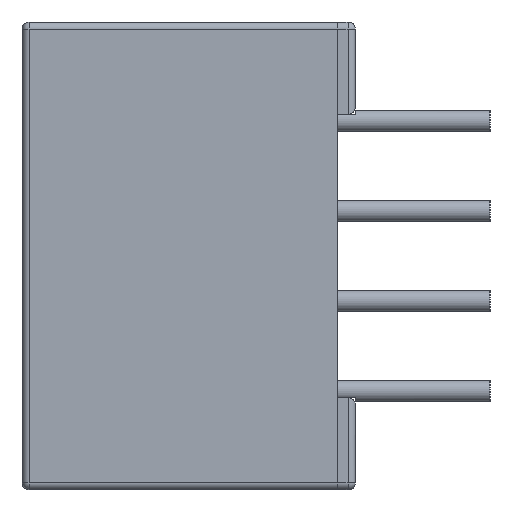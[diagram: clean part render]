
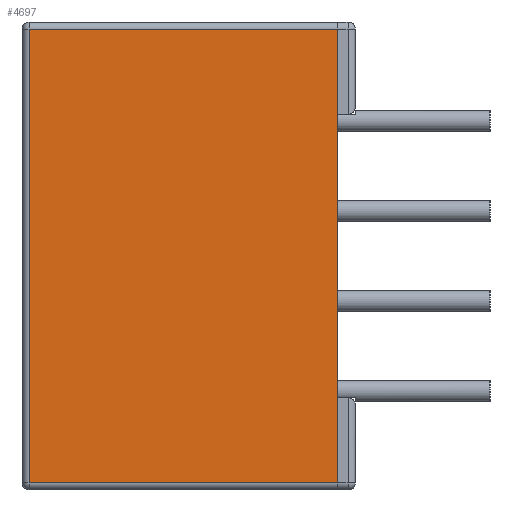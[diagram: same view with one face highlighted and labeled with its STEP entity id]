
A CAD part, left-side view. The second image highlights one B-rep face of the part: STEP entity #4697.
In plain terms, the highlighted planar face has unit normal (-1, 0, 0).
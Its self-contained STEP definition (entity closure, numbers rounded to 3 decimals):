
#568 = EDGE_CURVE ( 'NONE', #574, #860, #21016, .T. ) ;
#574 = VERTEX_POINT ( 'NONE', #21068 ) ;
#860 = VERTEX_POINT ( 'NONE', #21468 ) ;
#1440 = VERTEX_POINT ( 'NONE', #22428 ) ;
#1447 = VERTEX_POINT ( 'NONE', #22421 ) ;
#4528 = VERTEX_POINT ( 'NONE', #22679 ) ;
#4601 = EDGE_LOOP ( 'NONE', ( #4666, #14213, #14118, #14205, #14207, #8542 ) ) ;
#4666 = ORIENTED_EDGE ( 'NONE', *, *, #4780, .T. ) ;
#4697 = ADVANCED_FACE ( 'NONE', ( #22728 ), #22669, .T. ) ;
#4780 = EDGE_CURVE ( 'NONE', #1447, #1440, #22725, .T. ) ;
#8542 = ORIENTED_EDGE ( 'NONE', *, *, #13160, .T. ) ;
#9017 = VERTEX_POINT ( 'NONE', #22891 ) ;
#13160 = EDGE_CURVE ( 'NONE', #9017, #1447, #23375, .T. ) ;
#14118 = ORIENTED_EDGE ( 'NONE', *, *, #14208, .T. ) ;
#14205 = ORIENTED_EDGE ( 'NONE', *, *, #568, .T. ) ;
#14206 = EDGE_CURVE ( 'NONE', #860, #9017, #24039, .T. ) ;
#14207 = ORIENTED_EDGE ( 'NONE', *, *, #14206, .T. ) ;
#14208 = EDGE_CURVE ( 'NONE', #4528, #574, #24099, .T. ) ;
#14213 = ORIENTED_EDGE ( 'NONE', *, *, #14217, .T. ) ;
#14217 = EDGE_CURVE ( 'NONE', #1440, #4528, #24085, .T. ) ;
#21013 = DIRECTION ( 'NONE',  ( 0., 0., 1. ) ) ;
#21014 = VECTOR ( 'NONE', #21013, 1000. ) ;
#21015 = CARTESIAN_POINT ( 'NONE',  ( -14.5, 0., 6.6 ) ) ;
#21016 = LINE ( 'NONE', #21015, #21014 ) ;
#21068 = CARTESIAN_POINT ( 'NONE',  ( -14.5, 0., -4. ) ) ;
#21468 = CARTESIAN_POINT ( 'NONE',  ( -14.5, 0., 4. ) ) ;
#22421 = CARTESIAN_POINT ( 'NONE',  ( -14.497, 8.69, 6.397 ) ) ;
#22428 = CARTESIAN_POINT ( 'NONE',  ( -14.497, 8.69, -6.397 ) ) ;
#22669 = PLANE ( 'NONE',  #22727 ) ;
#22679 = CARTESIAN_POINT ( 'NONE',  ( -14.5, 0., -6.4 ) ) ;
#22720 = DIRECTION ( 'NONE',  ( 0., 0., -1. ) ) ;
#22721 = VECTOR ( 'NONE', #22720, 1000. ) ;
#22722 = CARTESIAN_POINT ( 'NONE',  ( -14.497, 8.69, -6.597 ) ) ;
#22723 = DIRECTION ( 'NONE',  ( 0., -1., 0. ) ) ;
#22724 = DIRECTION ( 'NONE',  ( -1., 0., 0. ) ) ;
#22725 = LINE ( 'NONE', #22722, #22721 ) ;
#22726 = CARTESIAN_POINT ( 'NONE',  ( -14.5, 0., 6.6 ) ) ;
#22727 = AXIS2_PLACEMENT_3D ( 'NONE', #22726, #22724, #22723 ) ;
#22728 = FACE_OUTER_BOUND ( 'NONE', #4601, .T. ) ;
#22891 = CARTESIAN_POINT ( 'NONE',  ( -14.5, 0., 6.4 ) ) ;
#23372 = DIRECTION ( 'NONE',  ( 0., 1., 0. ) ) ;
#23373 = VECTOR ( 'NONE', #23372, 1000. ) ;
#23374 = CARTESIAN_POINT ( 'NONE',  ( -14.5, 0., 6.4 ) ) ;
#23375 = LINE ( 'NONE', #23374, #23373 ) ;
#24036 = DIRECTION ( 'NONE',  ( 0., 0., 1. ) ) ;
#24037 = VECTOR ( 'NONE', #24036, 1000. ) ;
#24038 = CARTESIAN_POINT ( 'NONE',  ( -14.5, 0., 6.6 ) ) ;
#24039 = LINE ( 'NONE', #24038, #24037 ) ;
#24082 = DIRECTION ( 'NONE',  ( 0., -1., 0. ) ) ;
#24083 = VECTOR ( 'NONE', #24082, 1000. ) ;
#24084 = CARTESIAN_POINT ( 'NONE',  ( -14.5, 0.005, -6.4 ) ) ;
#24085 = LINE ( 'NONE', #24084, #24083 ) ;
#24096 = DIRECTION ( 'NONE',  ( 0., 0., 1. ) ) ;
#24097 = VECTOR ( 'NONE', #24096, 1000. ) ;
#24098 = CARTESIAN_POINT ( 'NONE',  ( -14.5, 0., 6.6 ) ) ;
#24099 = LINE ( 'NONE', #24098, #24097 ) ;
